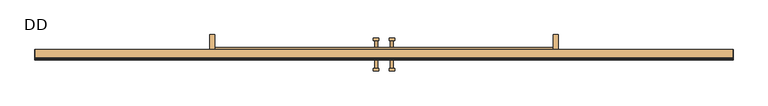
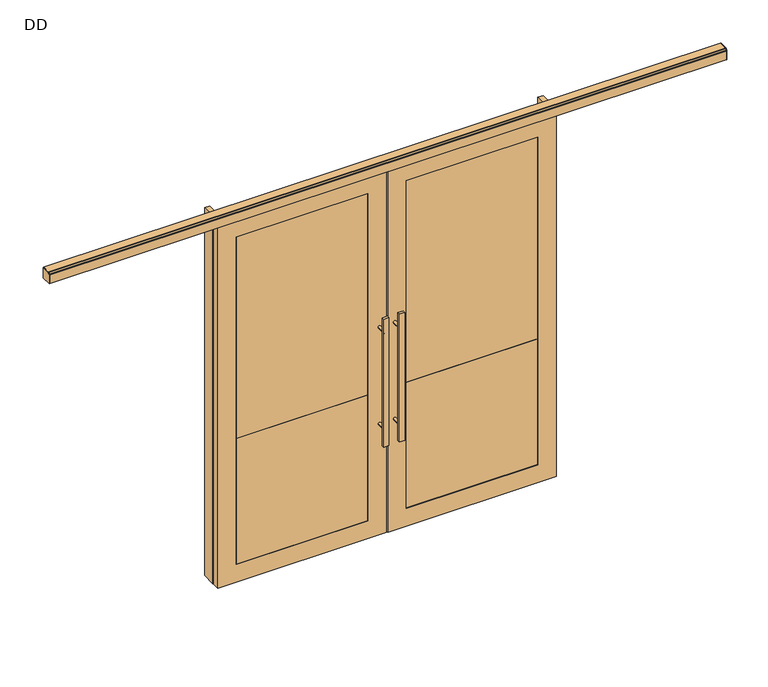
"""IFC4 building model written with IfcOpenShell, lengths in millimetres: door geometry, Mobiliário_Mobiliário de Escritório_Porta Dupla de Correr Mista Vidro Duplo - DD_Marelli : DD."""

from ifc_helpers import new_model, si_unit, point, frame, frame_2d, origin, origin_with_axes, place, context, project, spatial, polyline, circle_curve, trimmed, segment, composite_curve, outline, extrude, source, transform, mapped, element, save


def dd_aefd0d47(model_context):
    return source(origin(), model_context, "Body", "SweptSolid", [
        extrude(outline(polyline([(348.5735443, -15.0), (378.5735443, -15.0), (378.5735443, -100.0), (348.5735443, -100.0), (348.5735443, -15.0)])), origin_with_axes(), (0.0, 0.0, 1.0), 2300.0),
        extrude(outline(polyline([(2348.5735443, -15.0), (2348.5735443, -100.0), (2318.5735443, -100.0), (2318.5735443, -15.0), (2348.5735443, -15.0)])), origin_with_axes(), (0.0, 0.0, 1.0), 2300.0),
        extrude(outline(polyline([(1287.4735443, -223.7), (1287.4735443, -208.7), (1317.4735443, -208.7), (1317.4735443, -223.7), (1287.4735443, -223.7)])), frame((0.0, 0.0, 600.0), z_axis=(0.0, 0.0, 1.0), x_axis=(1.0, 0.0, 0.0)), (0.0, 0.0, 1.0), 800.0),
        extrude(outline(composite_curve([segment(trimmed(circle_curve(frame_2d((698.0, 1303.6014077)), 8.0), [point((698.0, 1295.6014077))], [point((698.0, 1311.6014077))], False, "CARTESIAN"), True, "CONTINUOUS"), segment(trimmed(circle_curve(frame_2d((698.0, 1303.6014077)), 8.0), [point((698.0, 1311.6014077))], [point((698.0, 1295.6014077))], False, "CARTESIAN"), True, "CONTINUOUS")], self_intersect=False)), frame((0.0, -208.7, 0.0), z_axis=(0.0, 1.0, 0.0), x_axis=(0.0, 0.0, 1.0)), (0.0, 0.0, 1.0), 58.7),
        extrude(outline(composite_curve([segment(trimmed(circle_curve(frame_2d((1302.0, 1303.6014077)), 8.0), [point((1302.0, 1295.6014077))], [point((1302.0, 1311.6014077))], False, "CARTESIAN"), True, "CONTINUOUS"), segment(trimmed(circle_curve(frame_2d((1302.0, 1303.6014077)), 8.0), [point((1302.0, 1311.6014077))], [point((1302.0, 1295.6014077))], False, "CARTESIAN"), True, "CONTINUOUS")], self_intersect=False)), frame((0.0, -208.7, 0.0), z_axis=(0.0, 1.0, 0.0), x_axis=(0.0, 0.0, 1.0)), (0.0, 0.0, 1.0), 58.7),
        extrude(outline(polyline([(1287.4735443, -34.3), (1317.4735443, -34.3), (1317.4735443, -49.3), (1287.4735443, -49.3), (1287.4735443, -34.3)])), frame((0.0, 0.0, 600.0), z_axis=(0.0, 0.0, 1.0), x_axis=(1.0, 0.0, 0.0)), (0.0, 0.0, 1.0), 800.0),
        extrude(outline(composite_curve([segment(trimmed(circle_curve(frame_2d((698.0, 1303.6014077)), 8.0), [point((698.0, 1295.6014077))], [point((698.0, 1311.6014077))], False, "CARTESIAN"), True, "CONTINUOUS"), segment(trimmed(circle_curve(frame_2d((698.0, 1303.6014077)), 8.0), [point((698.0, 1311.6014077))], [point((698.0, 1295.6014077))], False, "CARTESIAN"), True, "CONTINUOUS")], self_intersect=False)), frame((0.0, -108.0, 0.0), z_axis=(0.0, 1.0, 0.0), x_axis=(0.0, 0.0, 1.0)), (0.0, 0.0, 1.0), 58.7),
        extrude(outline(composite_curve([segment(trimmed(circle_curve(frame_2d((1302.0, 1303.6014077)), 8.0), [point((1302.0, 1295.6014077))], [point((1302.0, 1311.6014077))], False, "CARTESIAN"), True, "CONTINUOUS"), segment(trimmed(circle_curve(frame_2d((1302.0, 1303.6014077)), 8.0), [point((1302.0, 1311.6014077))], [point((1302.0, 1295.6014077))], False, "CARTESIAN"), True, "CONTINUOUS")], self_intersect=False)), frame((0.0, -108.0, 0.0), z_axis=(0.0, 1.0, 0.0), x_axis=(0.0, 0.0, 1.0)), (0.0, 0.0, 1.0), 58.7),
        extrude(outline(polyline([(1409.6735443, -223.7), (1379.6735443, -223.7), (1379.6735443, -208.7), (1409.6735443, -208.7), (1409.6735443, -223.7)])), frame((0.0, 0.0, 600.0), z_axis=(0.0, 0.0, 1.0), x_axis=(1.0, 0.0, 0.0)), (0.0, 0.0, 1.0), 800.0),
        extrude(outline(composite_curve([segment(trimmed(circle_curve(frame_2d((698.0, 1393.545681)), 8.0), [point((698.0, 1401.545681))], [point((698.0, 1385.545681))], False, "CARTESIAN"), True, "CONTINUOUS"), segment(trimmed(circle_curve(frame_2d((698.0, 1393.545681)), 8.0), [point((698.0, 1385.545681))], [point((698.0, 1401.545681))], False, "CARTESIAN"), True, "CONTINUOUS")], self_intersect=False)), frame((0.0, -208.7, 0.0), z_axis=(0.0, 1.0, 0.0), x_axis=(0.0, 0.0, 1.0)), (0.0, 0.0, 1.0), 58.7),
        extrude(outline(composite_curve([segment(trimmed(circle_curve(frame_2d((1302.0, 1393.545681)), 8.0), [point((1302.0, 1401.545681))], [point((1302.0, 1385.545681))], False, "CARTESIAN"), True, "CONTINUOUS"), segment(trimmed(circle_curve(frame_2d((1302.0, 1393.545681)), 8.0), [point((1302.0, 1385.545681))], [point((1302.0, 1401.545681))], False, "CARTESIAN"), True, "CONTINUOUS")], self_intersect=False)), frame((0.0, -208.7, 0.0), z_axis=(0.0, 1.0, 0.0), x_axis=(0.0, 0.0, 1.0)), (0.0, 0.0, 1.0), 58.7),
        extrude(outline(polyline([(1409.6735443, -34.3), (1409.6735443, -49.3), (1379.6735443, -49.3), (1379.6735443, -34.3), (1409.6735443, -34.3)])), frame((0.0, 0.0, 600.0), z_axis=(0.0, 0.0, 1.0), x_axis=(1.0, 0.0, 0.0)), (0.0, 0.0, 1.0), 800.0),
        extrude(outline(composite_curve([segment(trimmed(circle_curve(frame_2d((698.0, 1393.545681)), 8.0), [point((698.0, 1401.545681))], [point((698.0, 1385.545681))], False, "CARTESIAN"), True, "CONTINUOUS"), segment(trimmed(circle_curve(frame_2d((698.0, 1393.545681)), 8.0), [point((698.0, 1385.545681))], [point((698.0, 1401.545681))], False, "CARTESIAN"), True, "CONTINUOUS")], self_intersect=False)), frame((0.0, -108.0, 0.0), z_axis=(0.0, 1.0, 0.0), x_axis=(0.0, 0.0, 1.0)), (0.0, 0.0, 1.0), 58.7),
        extrude(outline(composite_curve([segment(trimmed(circle_curve(frame_2d((1302.0, 1393.545681)), 8.0), [point((1302.0, 1401.545681))], [point((1302.0, 1385.545681))], False, "CARTESIAN"), True, "CONTINUOUS"), segment(trimmed(circle_curve(frame_2d((1302.0, 1393.545681)), 8.0), [point((1302.0, 1385.545681))], [point((1302.0, 1401.545681))], False, "CARTESIAN"), True, "CONTINUOUS")], self_intersect=False)), frame((0.0, -108.0, 0.0), z_axis=(0.0, 1.0, 0.0), x_axis=(0.0, 0.0, 1.0)), (0.0, 0.0, 1.0), 58.7),
        extrude(outline(polyline([(2270.0, 348.5735443), (2.0, 348.5735443), (2.0, 1345.5735443), (2270.0, 1345.5735443), (2270.0, 348.5735443)]), holes=[polyline([(2160.0, 1235.5735443), (112.0, 1235.5735443), (112.0, 458.5735443), (2160.0, 458.5735443), (2160.0, 1235.5735443)])]), frame((0.0, -150.0, 0.0), z_axis=(0.0, 1.0, 0.0), x_axis=(0.0, 0.0, 1.0)), (0.0, 0.0, 1.0), 42.0),
        extrude(outline(polyline([(2270.0, 1351.5735443), (2.0, 1351.5735443), (2.0, 2348.5735443), (2270.0, 2348.5735443), (2270.0, 1351.5735443)]), holes=[polyline([(2160.0, 2238.5735443), (112.0, 2238.5735443), (112.0, 1461.5735443), (2160.0, 1461.5735443), (2160.0, 2238.5735443)])]), frame((0.0, -150.0, 0.0), z_axis=(0.0, 1.0, 0.0), x_axis=(0.0, 0.0, 1.0)), (0.0, 0.0, 1.0), 42.0),
        extrude(outline(polyline([(1235.5735443, -141.5), (1235.5735443, -147.5), (458.5735443, -147.5), (458.5735443, -141.5), (1235.5735443, -141.5)])), frame((0.0, 0.0, 899.0), z_axis=(0.0, 0.0, 1.0), x_axis=(1.0, 0.0, 0.0)), (0.0, 0.0, 1.0), 1261.0),
        extrude(outline(polyline([(1235.5735443, -116.5), (458.5735443, -116.5), (458.5735443, -110.5), (1235.5735443, -110.5), (1235.5735443, -116.5)])), frame((0.0, 0.0, 899.0), z_axis=(0.0, 0.0, 1.0), x_axis=(1.0, 0.0, 0.0)), (0.0, 0.0, 1.0), 1261.0),
        extrude(outline(polyline([(1461.5735443, -141.5), (2238.5735443, -141.5), (2238.5735443, -147.5), (1461.5735443, -147.5), (1461.5735443, -141.5)])), frame((0.0, 0.0, 899.0), z_axis=(0.0, 0.0, 1.0), x_axis=(1.0, 0.0, 0.0)), (0.0, 0.0, 1.0), 1261.0),
        extrude(outline(polyline([(1461.5735443, -116.5), (1461.5735443, -110.5), (2238.5735443, -110.5), (2238.5735443, -116.5), (1461.5735443, -116.5)])), frame((0.0, 0.0, 899.0), z_axis=(0.0, 0.0, 1.0), x_axis=(1.0, 0.0, 0.0)), (0.0, 0.0, 1.0), 1261.0),
        extrude(outline(polyline([(2318.5735443, -90.0), (2318.5735443, -100.0), (378.5735443, -100.0), (378.5735443, -90.0), (2318.5735443, -90.0)])), frame((0.0, 0.0, 2270.0), z_axis=(0.0, 0.0, 1.0), x_axis=(1.0, 0.0, 0.0)), (0.0, 0.0, 1.0), 30.0),
        extrude(outline(composite_curve([segment(polyline([(-100.0, 2280.0), (-103.7, 2280.0), (-103.7, 2288.4), (-118.3, 2288.4), (-118.3, 2316.9), (-142.2, 2316.9), (-142.2, 2288.4), (-156.1, 2288.4), (-156.1, 2264.2), (-161.3, 2264.2), (-161.3, 2316.3833057)]), True, "CONTINUOUS"), segment(trimmed(circle_curve(frame_2d((-154.7488615, 2316.4864296)), 6.5519502), [point((-161.3, 2316.3833057))], [point((-159.3082964, 2321.1917036))], False, "CARTESIAN"), True, "CONTINUOUS"), segment(polyline([(-159.3082964, 2321.1917036), (-153.2917036, 2327.2082964)]), True, "CONTINUOUS"), segment(trimmed(circle_curve(frame_2d((-148.5864296, 2322.6488615)), 6.5519502), [point((-153.2917036, 2327.2082964))], [point((-148.4833057, 2329.2))], False, "CARTESIAN"), True, "CONTINUOUS"), segment(polyline([(-148.4833057, 2329.2), (-100.0, 2329.2), (-100.0, 2280.0)]), True, "CONTINUOUS")], self_intersect=False)), frame((-651.4264557, 0.0, 0.0), z_axis=(1.0, 0.0, 0.0), x_axis=(0.0, 1.0, 0.0)), (0.0, 0.0, 1.0), 4000.0),
        extrude(outline(composite_curve([segment(polyline([(-100.0, 2264.2), (-161.3, 2264.2), (-161.3, 2316.3833057)]), True, "CONTINUOUS"), segment(trimmed(circle_curve(frame_2d((-154.7488615, 2316.4864296)), 6.5519502), [point((-161.3, 2316.3833057))], [point((-159.3082964, 2321.1917036))], False, "CARTESIAN"), True, "CONTINUOUS"), segment(polyline([(-159.3082964, 2321.1917036), (-153.2917036, 2327.2082964)]), True, "CONTINUOUS"), segment(trimmed(circle_curve(frame_2d((-148.5864296, 2322.6488615)), 6.5519502), [point((-153.2917036, 2327.2082964))], [point((-148.4833057, 2329.2))], False, "CARTESIAN"), True, "CONTINUOUS"), segment(polyline([(-148.4833057, 2329.2), (-100.0, 2329.2), (-100.0, 2264.2)]), True, "CONTINUOUS")], self_intersect=False)), frame((-654.4264557, 0.0, 0.0), z_axis=(1.0, 0.0, 0.0), x_axis=(0.0, 1.0, 0.0)), (0.0, 0.0, 1.0), 3.0),
        extrude(outline(composite_curve([segment(polyline([(-100.0, 2264.2), (-161.3, 2264.2), (-161.3, 2316.3833057)]), True, "CONTINUOUS"), segment(trimmed(circle_curve(frame_2d((-154.7488615, 2316.4864296)), 6.5519502), [point((-161.3, 2316.3833057))], [point((-159.3082964, 2321.1917036))], False, "CARTESIAN"), True, "CONTINUOUS"), segment(polyline([(-159.3082964, 2321.1917036), (-153.2917036, 2327.2082964)]), True, "CONTINUOUS"), segment(trimmed(circle_curve(frame_2d((-148.5864296, 2322.6488615)), 6.5519502), [point((-153.2917036, 2327.2082964))], [point((-148.4833057, 2329.2))], False, "CARTESIAN"), True, "CONTINUOUS"), segment(polyline([(-148.4833057, 2329.2), (-100.0, 2329.2), (-100.0, 2264.2)]), True, "CONTINUOUS")], self_intersect=False)), frame((3348.5735443, 0.0, 0.0), z_axis=(1.0, 0.0, 0.0), x_axis=(0.0, 1.0, 0.0)), (0.0, 0.0, 1.0), 3.0),
        extrude(outline(polyline([(1235.5735443, -110.5), (1235.5735443, -147.5), (458.5735443, -147.5), (458.5735443, -110.5), (1235.5735443, -110.5)])), frame((0.0, 0.0, 112.0), z_axis=(0.0, 0.0, 1.0), x_axis=(1.0, 0.0, 0.0)), (0.0, 0.0, 1.0), 787.0),
        extrude(outline(polyline([(1461.5735443, -110.5), (2238.5735443, -110.5), (2238.5735443, -147.5), (1461.5735443, -147.5), (1461.5735443, -110.5)])), frame((0.0, 0.0, 112.0), z_axis=(0.0, 0.0, 1.0), x_axis=(1.0, 0.0, 0.0)), (0.0, 0.0, 1.0), 787.0),
    ])


if __name__ == "__main__":
    model = new_model("IFC4")
    model_context = context("Model", 3, world=origin())
    ifc_project = project(units=[si_unit("LENGTHUNIT", "METRE", prefix="MILLI")], contexts=[model_context])
    site = spatial("IfcSite", under=ifc_project)
    building = spatial("IfcBuilding", under=site)
    placement = place(None, origin())
    dd_shape = dd_aefd0d47(model_context)
    element("IfcDoor", 1, ObjectType="Mobiliário_Mobiliário de Escritório_Porta Dupla de Correr Mista Vidro Duplo - DD_Marelli : DD", at=placement, inside=building, context=model_context, shape_type="MappedRepresentation", body=[
        mapped(dd_shape, transform((0.0, 0.0, 0.0), x_axis=(1.0, 0.0, 0.0), y_axis=(0.0, 1.0, 0.0), z_axis=(0.0, 0.0, 1.0))),
    ])
    save(model, "model.ifc")
